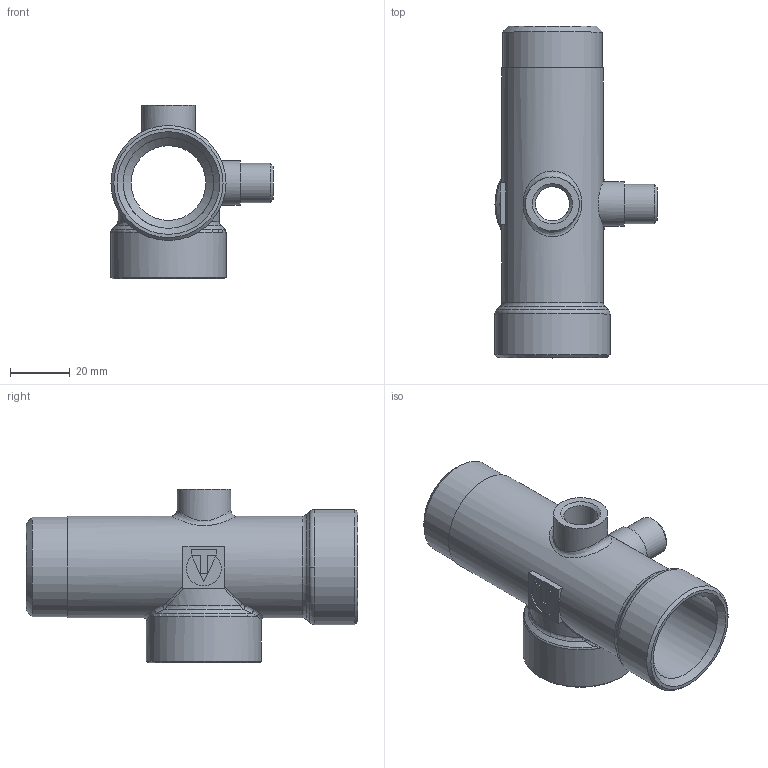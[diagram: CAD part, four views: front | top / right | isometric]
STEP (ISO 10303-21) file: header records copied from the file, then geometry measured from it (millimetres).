
FILE_DESCRIPTION(('STEP AP203'), '1');
FILE_NAME('ÂÐ.753197.003 - VTr.600.N.06110 Ïÿòèõîä. ñîåä. íàñîñ', '2024-07-09T10:29:32', ('User'), ('Vesta'), 'C3D Converter', 'C3D Toolkit', '');
FILE_SCHEMA(('CONFIG_CONTROL_DESIGN'));
Length unit declared in the file: millimetre
Products named in the file (1): ВР.753197.003
Bounding box: 54.25 x 111 x 58 mm (x, y, z)
Volume: 37544.3 mm3; surface area: 27833.9 mm2
Topology: 1 solids, 1 shells, 80 faces, 191 edges, 116 vertices
Faces by surface type: plane 24, bspline 19, cylinder 16, cone 14, torus 7
Full cylindrical faces by diameter (mm): 3 x1, 7.2 x1, 11.445 x1, 13.157 x1, 15 x1, 18 x1, 25 x1, 30.34 x2, 33.249 x1, 34 x1, 38.5 x2
Entity records: 6122 total; most frequent: CARTESIAN_POINT 4511, ORIENTED_EDGE 324, DIRECTION 264, EDGE_CURVE 162, EDGE_LOOP 120, VERTEX_POINT 116, AXIS2_PLACEMENT_3D 112, ADVANCED_FACE 80
